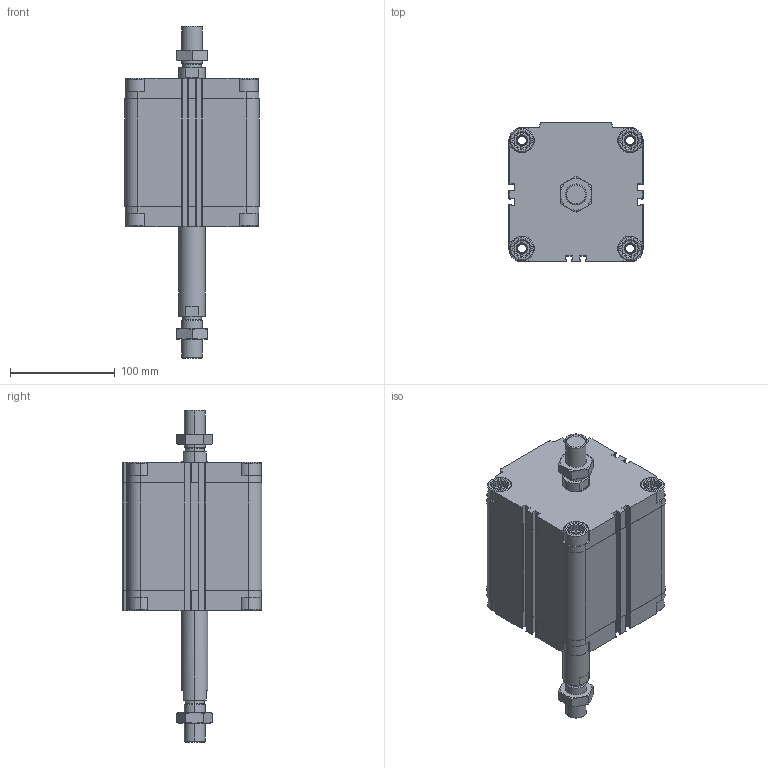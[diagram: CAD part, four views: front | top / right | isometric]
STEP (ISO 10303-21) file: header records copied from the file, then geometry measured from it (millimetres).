
FILE_DESCRIPTION (( 'STEP AP203' ), '1' );
FILE_NAME ('CDVU100-75M-P.STEP', '2020-07-21T16:39:59', ( '' ), ( '' ), 'SwSTEP 2.0', 'SolidWorks 2019', '' );
FILE_SCHEMA (( 'CONFIG_CONTROL_DESIGN' ));
Length unit declared in the file: millimetre
Products named in the file (1): CDVU100-75M-P
Bounding box: 128 x 133 x 316.5 mm (x, y, z)
Volume: 1752253.9 mm3; surface area: 237786.3 mm2
Topology: 4 solids, 4 shells, 706 faces, 1888 edges, 1234 vertices
Faces by surface type: plane 410, cylinder 216, cone 80
Entity records: 23055 total; most frequent: CARTESIAN_POINT 5265, ORIENTED_EDGE 3768, DIRECTION 3610, EDGE_CURVE 1884, AXIS2_PLACEMENT_3D 1235, VERTEX_POINT 1234, VECTOR 1140, LINE 1140
